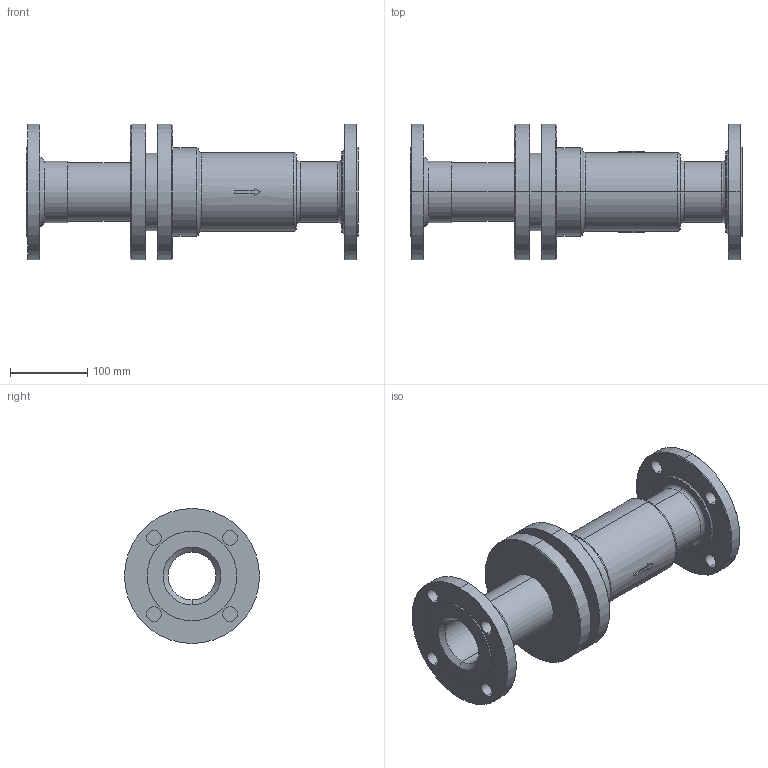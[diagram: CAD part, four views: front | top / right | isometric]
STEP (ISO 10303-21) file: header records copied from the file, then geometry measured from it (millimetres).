
FILE_DESCRIPTION( (''), '2;1');
FILE_NAME ('PC1027.9516.ES-10-100 65A_5887.stp','2025-07-30T12:51:47',(''),(''),'spGate 20.6.3 (****-****-****-****)','','');
FILE_SCHEMA (('AUTOMOTIVE_DESIGN'));
Length unit declared in the file: millimetre
Bounding box: 430 x 175 x 175 mm (x, y, z)
Volume: 2750274.9 mm3; surface area: 376905.4 mm2
Topology: 1 solids, 1 shells, 108 faces, 246 edges, 154 vertices
Faces by surface type: cylinder 44, bspline 34, plane 30
Entity records: 5447 total; most frequent: CARTESIAN_POINT 1128, ORIENTED_EDGE 492, DIRECTION 444, COLOUR_RGB 355, PRESENTATION_STYLE_ASSIGNMENT 355, STYLED_ITEM 355, EDGE_CURVE 246, DRAUGHTING_PRE_DEFINED_CURVE_FONT 246
